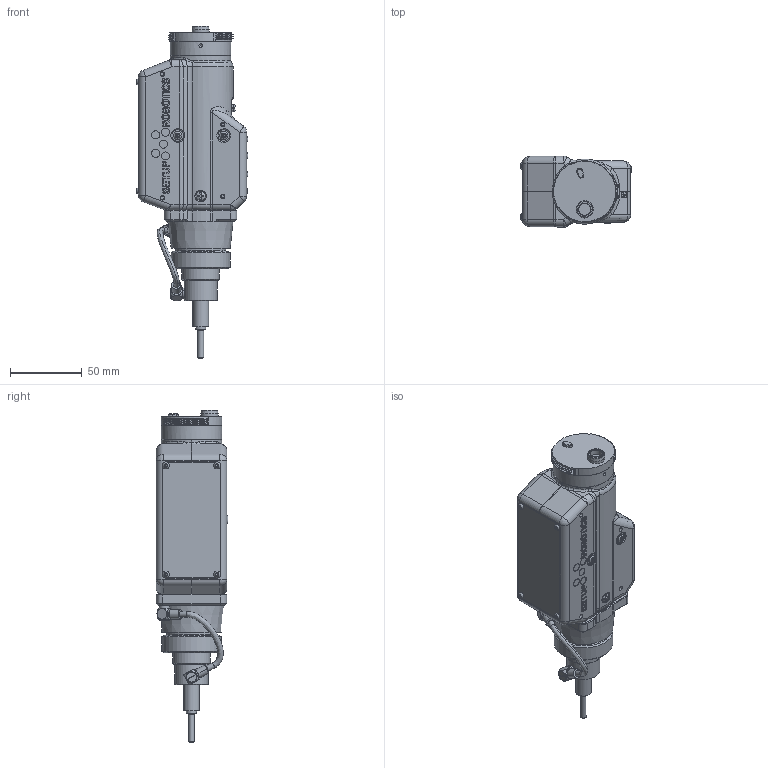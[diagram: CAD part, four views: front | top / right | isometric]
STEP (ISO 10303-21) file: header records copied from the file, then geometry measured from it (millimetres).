
FILE_DESCRIPTION(/* description */ (''),/* implementation_level */ '2;1');
FILE_NAME(/* name */ 'C:\Users\Uffe Safeldt\Dropbox\SoftBox_Documents\Inventor\QuickTool\CAD\SD-1.stp',/* time_stamp */ '2023-11-13T15:35:33+01:00',/* author */ ('Uffe Safeldt'),/* organization */ (''),/* preprocessor_version */ 'ST-DEVELOPER v15.2',/* originating_system */ 'Autodesk Inventor 2014',/* authorisation */ '');
FILE_SCHEMA (('CONFIG_CONTROL_DESIGN'));
Products named in the file (1): SD-1
Bounding box: 77.35 x 49.7 x 230.65 mm (x, y, z)
Volume: 764.2 mm3; surface area: 49926.9 mm2
Topology: 42 solids, 48 shells, 2764 faces, 7383 edges, 4813 vertices
Faces by surface type: plane 2090, cylinder 351, bspline 138, cone 92, torus 67, sphere 26
Full cylindrical faces by diameter (mm): 2.459 x8, 2.5 x6, 2.6 x4, 3 x12, 3.2 x2, 3.246 x1, 3.7 x4, 4 x7, 6.75 x2, 7 x1, 8 x2, 8.2 x1, 8.4 x2, 11 x1, 11.01 x1, 12 x1, 23 x1, 23.01 x1, 26 x1, 34.6 x1, 41 x1, 42 x1
Entity records: 91555 total; most frequent: CARTESIAN_POINT 21461, ORIENTED_EDGE 14416, DIRECTION 12939, EDGE_CURVE 7201, LINE 5763, VECTOR 5763, VERTEX_POINT 4753, AXIS2_PLACEMENT_3D 3588
